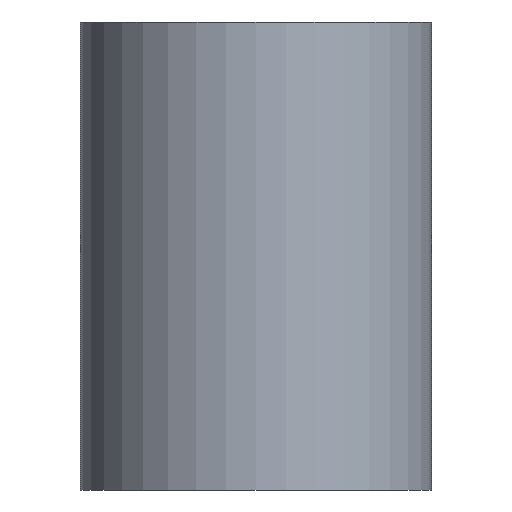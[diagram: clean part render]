
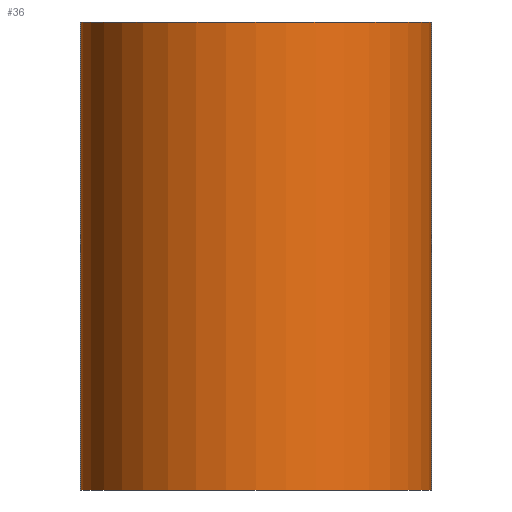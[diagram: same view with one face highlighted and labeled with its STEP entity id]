
A CAD part, left-side view. The second image highlights one B-rep face of the part: STEP entity #36.
In plain terms, the highlighted cylindrical face has radius 1.5 mm (diameter 3 mm), a partial arc.
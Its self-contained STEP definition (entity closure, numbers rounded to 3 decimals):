
#36=ADVANCED_FACE('',(#42),#78,.T.);
#42=FACE_OUTER_BOUND('',#50,.F.);
#50=EDGE_LOOP('',(#71,#72,#73,#74));
#71=ORIENTED_EDGE('',*,*,#101,.F.);
#72=ORIENTED_EDGE('',*,*,#106,.T.);
#73=ORIENTED_EDGE('',*,*,#102,.T.);
#74=ORIENTED_EDGE('',*,*,#105,.T.);
#78=CYLINDRICAL_SURFACE('',#138,1.5);
#89=LINE('',#191,#93);
#90=LINE('',#192,#94);
#93=VECTOR('',#152,4.);
#94=VECTOR('',#153,4.);
#101=EDGE_CURVE('',#115,#118,#89,.T.);
#102=EDGE_CURVE('',#116,#117,#90,.T.);
#105=EDGE_CURVE('',#117,#118,#113,.T.);
#106=EDGE_CURVE('',#115,#116,#114,.T.);
#113=CIRCLE('',#131,1.5);
#114=CIRCLE('',#132,1.5);
#115=VERTEX_POINT('',#177);
#116=VERTEX_POINT('',#178);
#117=VERTEX_POINT('',#179);
#118=VERTEX_POINT('',#180);
#131=AXIS2_PLACEMENT_3D('',#195,#158,#159);
#132=AXIS2_PLACEMENT_3D('',#196,#160,#161);
#138=AXIS2_PLACEMENT_3D('',#202,#172,#173);
#152=DIRECTION('',(0.,0.,1.));
#153=DIRECTION('',(0.,0.,1.));
#158=DIRECTION('',(0.,0.,1.));
#159=DIRECTION('',(0.,1.,0.));
#160=DIRECTION('',(0.,0.,-1.));
#161=DIRECTION('',(0.,-1.,0.));
#172=DIRECTION('',(0.,0.,1.));
#173=DIRECTION('',(0.,1.,0.));
#177=CARTESIAN_POINT('',(-5.95,64.8,172.8));
#178=CARTESIAN_POINT('',(-5.95,67.8,172.8));
#179=CARTESIAN_POINT('',(-5.95,67.8,176.8));
#180=CARTESIAN_POINT('',(-5.95,64.8,176.8));
#191=CARTESIAN_POINT('',(-5.95,64.8,172.8));
#192=CARTESIAN_POINT('',(-5.95,67.8,172.8));
#195=CARTESIAN_POINT('',(-5.95,66.3,176.8));
#196=CARTESIAN_POINT('',(-5.95,66.3,172.8));
#202=CARTESIAN_POINT('',(-5.95,66.3,172.8));
